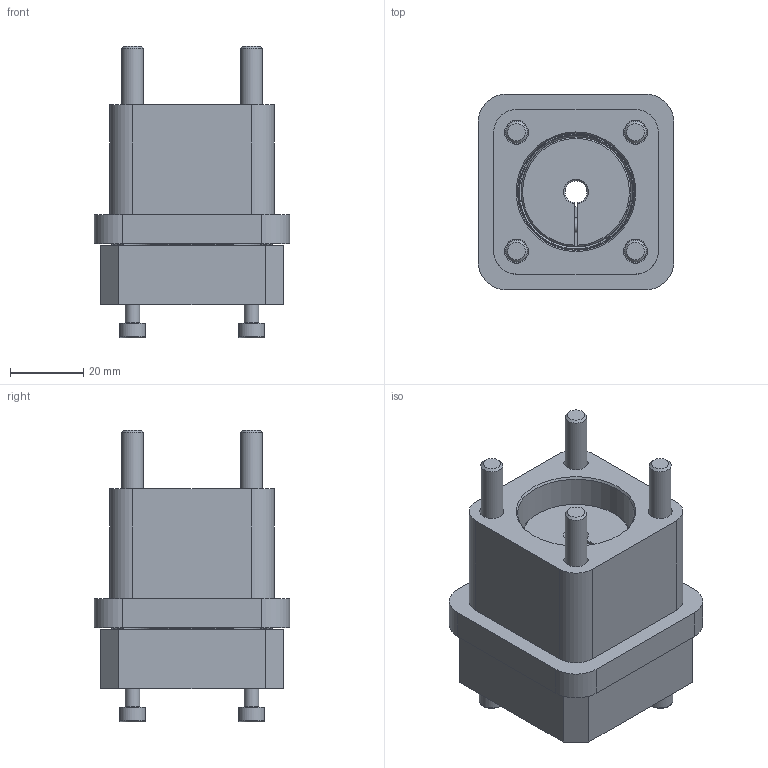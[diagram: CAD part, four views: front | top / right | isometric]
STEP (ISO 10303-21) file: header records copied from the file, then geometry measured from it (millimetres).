
FILE_DESCRIPTION(/* description */ ('EAMK-A O-Coupling housing'),/* implementation_level */ '2;1');
FILE_NAME(/* name */ 'C:\STORE\ホームページ用データ\\X2\30E230FC30BF53D64ED830AD30C330C8\X0\_2016_追加\3D_STEP\J08209B.stp',/* time_stamp */ '2016-03-16T16:32:48+09:00',/* author */ ('jp4te01'),/* organization */ ('FESTO'),/* preprocessor_version */ 'ST-DEVELOPER v15.6',/* originating_system */ 'Autodesk Inventor 2015',/* authorisation */ '');
FILE_SCHEMA (('AUTOMOTIVE_DESIGN { 1 0 10303 214 3 1 1 }'));
Length unit declared in the file: millimetre
Products named in the file (8): 551006 EAMK-A-D32-44A_C---(1O); DIN-912 - M6x30(F); 551006 EAMK-A-D32-44A_C; 533708_EAMC_30_32_6_8; J07448C; J07449; コピー版 JIS B 1176 - M4 x 12; J08209B
Bounding box: 53.5 x 53.5 x 79.7 mm (x, y, z)
Volume: 89576.9 mm3; surface area: 44874.7 mm2
Topology: 14 solids, 14 shells, 463 faces, 1118 edges, 706 vertices
Faces by surface type: plane 231, cylinder 124, cone 90, torus 18
Full cylindrical faces by diameter (mm): 2 x12, 3.242 x10, 4 x8, 4.5 x4, 6 x4, 6.6 x4, 7 x6, 10 x4, 11 x4, 14.2 x1, 30 x1, 31.5 x1, 32 x1, 35 x1, 44 x1
Entity records: 9289 total; most frequent: CARTESIAN_POINT 1863, DIRECTION 1590, ORIENTED_EDGE 1376, EDGE_CURVE 688, AXIS2_PLACEMENT_3D 633, VERTEX_POINT 488, EDGE_LOOP 432, LINE 324
